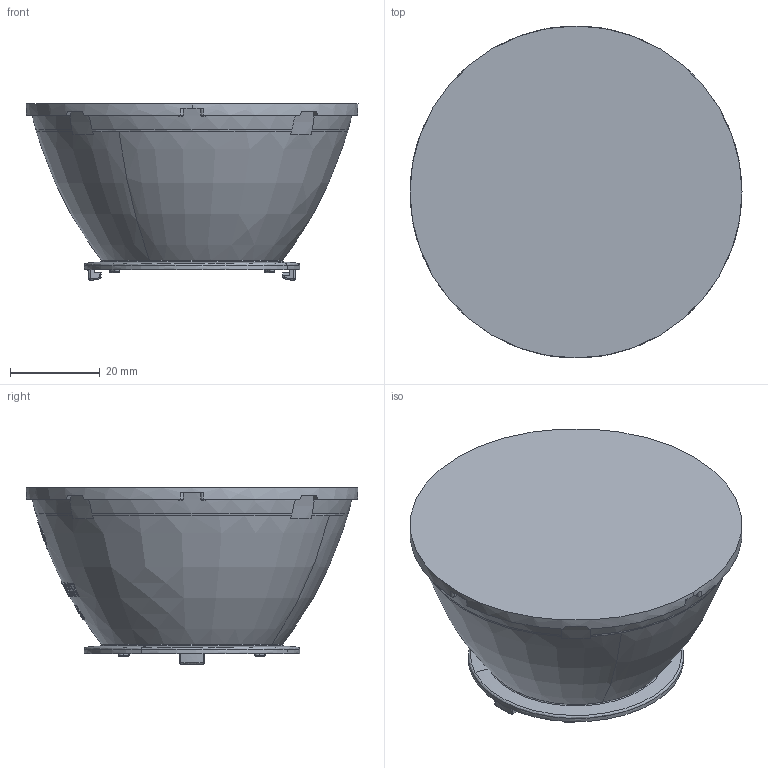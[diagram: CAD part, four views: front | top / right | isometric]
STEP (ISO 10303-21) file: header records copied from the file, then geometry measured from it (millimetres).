
FILE_DESCRIPTION(('CAx-IF Rec.Pracs.---Model Styling and Organization---1.2---2011-12-15','CAx-IF Rec.Pracs.---Geometric and Assembly Validation Properties---4.3---2015-07-16','CAx-IF Rec.Pracs.---Representation and Presentation of Product Manufacturing Information (PMI)---4.0.3---2016-08-25'),'2;1');
FILE_NAME('model1.stp','2022-05-06T08:15:52+02:00',(''),(''),'STEP Interface 4.5 by CT CoreTechnologie','3D_Evolution4.5 by CT CoreTechnologie','');
FILE_SCHEMA(('AP203_CONFIGURATION_CONTROLLED_3D_DESIGN_OF_MECHANICAL_PARTS_AND_ASSEMBLIES_MIM_LF'));
Length unit declared in the file: millimetre
Products named in the file (1): model1
Bounding box: 74 x 74 x 39.25 mm (x, y, z)
Volume: 103783.6 mm3; surface area: 14496.6 mm2
Topology: 1 solids, 1 shells, 338 faces, 869 edges, 570 vertices
Faces by surface type: bspline 338
Entity records: 35583 total; most frequent: CARTESIAN_POINT 25688, ORIENTED_EDGE 1740, DIRECTION 958, EDGE_CURVE 870, VERTEX_POINT 571, VECTOR 514, LINE 514, EDGE_LOOP 375
